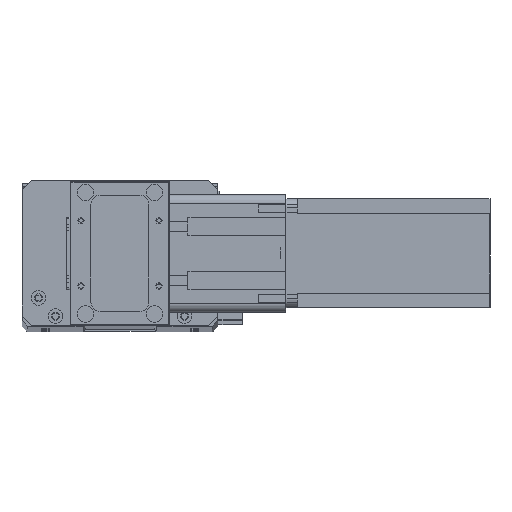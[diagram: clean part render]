
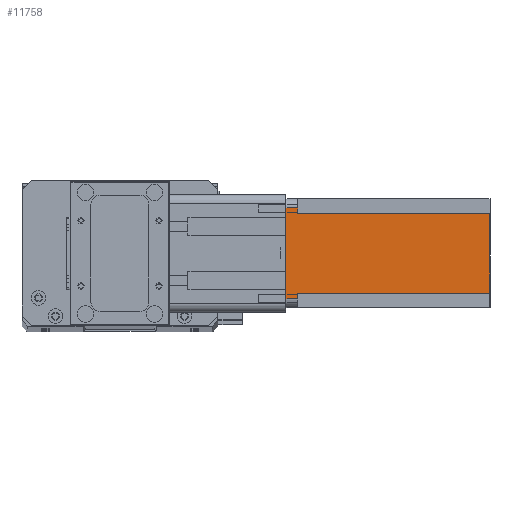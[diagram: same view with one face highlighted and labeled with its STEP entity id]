
A CAD part, top view. The second image highlights one B-rep face of the part: STEP entity #11758.
In plain terms, the highlighted planar face has unit normal (0, 0, 1) as drawn and (0, 1, 0) by its records, which use the part's own axes.
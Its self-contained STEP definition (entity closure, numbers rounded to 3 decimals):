
#1310 = LINE ( 'NONE', #7532, #7224 ) ;
#1612 = VECTOR ( 'NONE', #9324, 1000. ) ;
#2202 = ORIENTED_EDGE ( 'NONE', *, *, #16214, .F. ) ;
#2429 = ORIENTED_EDGE ( 'NONE', *, *, #7636, .F. ) ;
#2573 = EDGE_CURVE ( 'NONE', #16695, #20200, #16666, .T. ) ;
#2913 = VERTEX_POINT ( 'NONE', #26041 ) ;
#3529 = EDGE_CURVE ( 'NONE', #17090, #2913, #27153, .T. ) ;
#3653 = ORIENTED_EDGE ( 'NONE', *, *, #3772, .F. ) ;
#3772 = EDGE_CURVE ( 'NONE', #23159, #6237, #4303, .T. ) ;
#3981 = CARTESIAN_POINT ( 'NONE',  ( 5., 60., -6.5 ) ) ;
#4299 = DIRECTION ( 'NONE',  ( 0., 0., -1. ) ) ;
#4303 = LINE ( 'NONE', #25367, #8816 ) ;
#4689 = ORIENTED_EDGE ( 'NONE', *, *, #2573, .T. ) ;
#5744 = VERTEX_POINT ( 'NONE', #28599 ) ;
#6237 = VERTEX_POINT ( 'NONE', #6384 ) ;
#6384 = CARTESIAN_POINT ( 'NONE',  ( 52., 60., -6.5 ) ) ;
#6947 = EDGE_CURVE ( 'NONE', #23159, #18575, #9332, .T. ) ;
#7224 = VECTOR ( 'NONE', #21008, 1000. ) ;
#7532 = CARTESIAN_POINT ( 'NONE',  ( 0., 60., 0. ) ) ;
#7636 = EDGE_CURVE ( 'NONE', #6237, #2913, #15674, .T. ) ;
#8253 = ORIENTED_EDGE ( 'NONE', *, *, #6947, .T. ) ;
#8816 = VECTOR ( 'NONE', #14178, 1000. ) ;
#9179 = VECTOR ( 'NONE', #13279, 1000. ) ;
#9324 = DIRECTION ( 'NONE',  ( 0., 0., 1. ) ) ;
#9332 = LINE ( 'NONE', #24449, #27299 ) ;
#9459 = ORIENTED_EDGE ( 'NONE', *, *, #20957, .T. ) ;
#9644 = VECTOR ( 'NONE', #13919, 1000. ) ;
#10904 = CARTESIAN_POINT ( 'NONE',  ( 8., 60., -112.5 ) ) ;
#11321 = DIRECTION ( 'NONE',  ( 0., 1., 0. ) ) ;
#11758 = ADVANCED_FACE ( 'NONE', ( #28152 ), #20323, .T. ) ;
#12153 = CARTESIAN_POINT ( 'NONE',  ( 55., 60., 0. ) ) ;
#13120 = CARTESIAN_POINT ( 'NONE',  ( 52., 60., -112.5 ) ) ;
#13279 = DIRECTION ( 'NONE',  ( 0., 0., -1. ) ) ;
#13919 = DIRECTION ( 'NONE',  ( 1., 0., 0. ) ) ;
#14178 = DIRECTION ( 'NONE',  ( 0., 0., 1. ) ) ;
#14351 = CARTESIAN_POINT ( 'NONE',  ( 8., 60., -6.5 ) ) ;
#15674 = LINE ( 'NONE', #25099, #9644 ) ;
#16214 = EDGE_CURVE ( 'NONE', #5744, #18575, #23837, .T. ) ;
#16666 = LINE ( 'NONE', #24988, #1612 ) ;
#16695 = VERTEX_POINT ( 'NONE', #3981 ) ;
#17090 = VERTEX_POINT ( 'NONE', #12153 ) ;
#17335 = AXIS2_PLACEMENT_3D ( 'NONE', #22574, #11321, #27106 ) ;
#17849 = VECTOR ( 'NONE', #4299, 1000. ) ;
#18328 = EDGE_CURVE ( 'NONE', #17090, #20200, #1310, .T. ) ;
#18361 = DIRECTION ( 'NONE',  ( -1., 0., 0. ) ) ;
#18575 = VERTEX_POINT ( 'NONE', #24237 ) ;
#19966 = CARTESIAN_POINT ( 'NONE',  ( 55., 60., -112.5 ) ) ;
#20076 = CARTESIAN_POINT ( 'NONE',  ( 5., 60., 0. ) ) ;
#20200 = VERTEX_POINT ( 'NONE', #20076 ) ;
#20323 = PLANE ( 'NONE',  #17335 ) ;
#20957 = EDGE_CURVE ( 'NONE', #5744, #16695, #24749, .T. ) ;
#21008 = DIRECTION ( 'NONE',  ( -1., 0., 0. ) ) ;
#22051 = ORIENTED_EDGE ( 'NONE', *, *, #3529, .T. ) ;
#22272 = DIRECTION ( 'NONE',  ( -1., 0., 0. ) ) ;
#22574 = CARTESIAN_POINT ( 'NONE',  ( 0., 60., -112.5 ) ) ;
#23159 = VERTEX_POINT ( 'NONE', #13120 ) ;
#23837 = LINE ( 'NONE', #10904, #17849 ) ;
#24047 = VECTOR ( 'NONE', #18361, 1000. ) ;
#24237 = CARTESIAN_POINT ( 'NONE',  ( 8., 60., -112.5 ) ) ;
#24449 = CARTESIAN_POINT ( 'NONE',  ( 0., 60., -112.5 ) ) ;
#24749 = LINE ( 'NONE', #14351, #24047 ) ;
#24988 = CARTESIAN_POINT ( 'NONE',  ( 5., 60., -112.5 ) ) ;
#25099 = CARTESIAN_POINT ( 'NONE',  ( 52., 60., -6.5 ) ) ;
#25367 = CARTESIAN_POINT ( 'NONE',  ( 52., 60., -112.5 ) ) ;
#26041 = CARTESIAN_POINT ( 'NONE',  ( 55., 60., -6.5 ) ) ;
#26921 = EDGE_LOOP ( 'NONE', ( #27024, #22051, #2429, #3653, #8253, #2202, #9459, #4689 ) ) ;
#27024 = ORIENTED_EDGE ( 'NONE', *, *, #18328, .F. ) ;
#27106 = DIRECTION ( 'NONE',  ( 0., 0., 1. ) ) ;
#27153 = LINE ( 'NONE', #19966, #9179 ) ;
#27299 = VECTOR ( 'NONE', #22272, 1000. ) ;
#28152 = FACE_OUTER_BOUND ( 'NONE', #26921, .T. ) ;
#28599 = CARTESIAN_POINT ( 'NONE',  ( 8., 60., -6.5 ) ) ;
